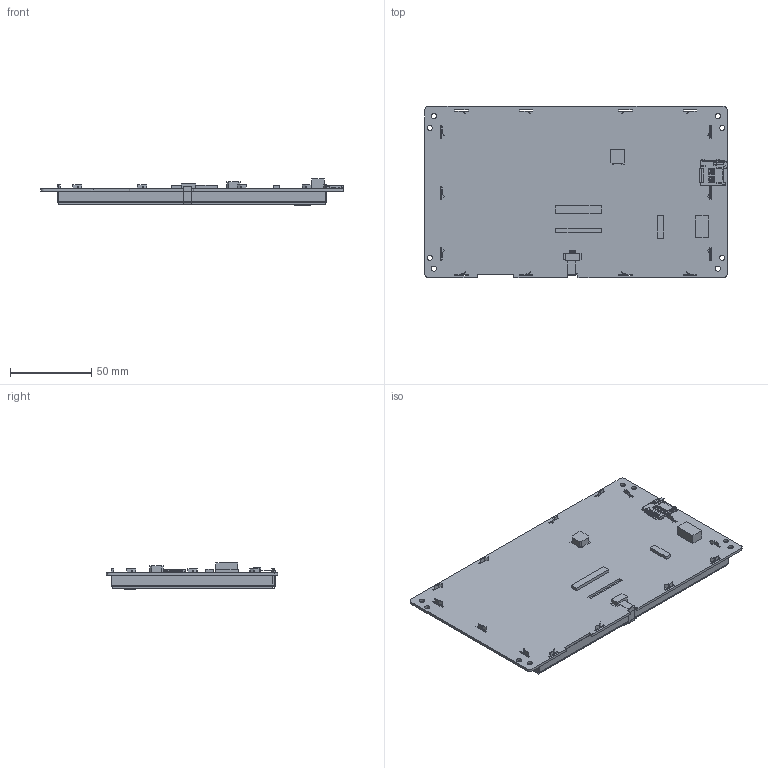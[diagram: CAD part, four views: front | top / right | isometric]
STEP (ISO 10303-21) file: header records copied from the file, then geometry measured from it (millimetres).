
FILE_DESCRIPTION(/* description */ (''),/* implementation_level */ '2;1');
FILE_NAME(/* name */ '',/* time_stamp */ '2023-11-30T19:59:33+08:00',/* author */ (''),/* organization */ (''),/* preprocessor_version */ 'ST-DEVELOPER v11',/* originating_system */ 'SIEMENS PLM Software NX 7.5',/* authorisation */ '');
FILE_SCHEMA (('AP203_CONFIGURATION_CONTROLLED_3D_DESIGN_OF_MECHANICAL_PARTS_AND_ASSEMBLIES_MIM_LF'));
Length unit declared in the file: millimetre
Products named in the file (1): VTc070T34T
Bounding box: 186.3 x 105.4 x 16.1 mm (x, y, z)
Volume: 158417.9 mm3; surface area: 124490.3 mm2
Topology: 17 solids, 17 shells, 1316 faces, 3716 edges, 2412 vertices
Faces by surface type: plane 1020, cylinder 292, extrusion 3, cone 1
Full cylindrical faces by diameter (mm): 3.2 x8
Entity records: 43249 total; most frequent: CARTESIAN_POINT 7992, ORIENTED_EDGE 7416, DIRECTION 6791, EDGE_CURVE 3708, VECTOR 2985, LINE 2982, VERTEX_POINT 2412, AXIS2_PLACEMENT_3D 1903
